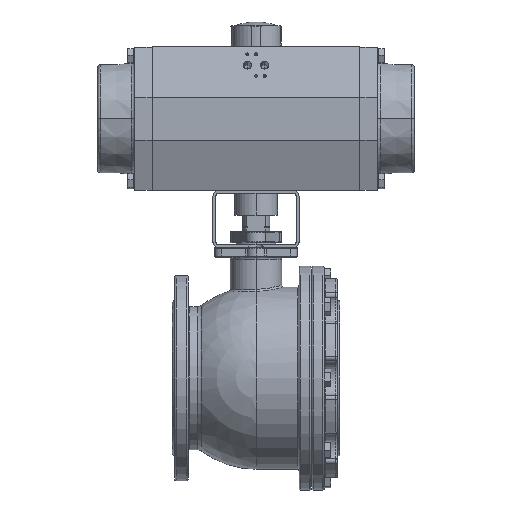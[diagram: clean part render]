
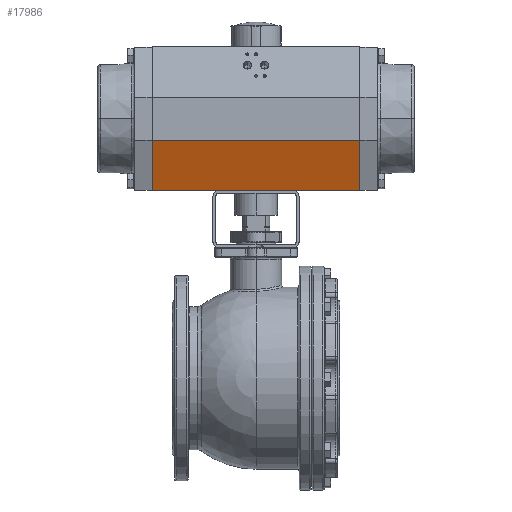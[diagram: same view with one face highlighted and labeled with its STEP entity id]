
A CAD part, top view. The second image highlights one B-rep face of the part: STEP entity #17986.
In plain terms, the highlighted planar face has unit normal (0, -0.336, 0.942) as drawn and (0.942, -0.336, 0) by its records, which use the part's own axes.
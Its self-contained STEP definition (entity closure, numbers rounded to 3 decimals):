
#1933 = EDGE_CURVE ( 'NONE', #19472, #19480, #2849, .T. ) ;
#1951 = EDGE_CURVE ( 'NONE', #19514, #19516, #22395, .T. ) ;
#1979 = EDGE_CURVE ( 'NONE', #19480, #19516, #22572, .T. ) ;
#1980 = EDGE_CURVE ( 'NONE', #19472, #19514, #22577, .T. ) ;
#2849 = LINE ( 'NONE', #2853, #24239 ) ;
#2853 = CARTESIAN_POINT ( 'NONE',  ( 62.5, -100., -145. ) ) ;
#2855 = DIRECTION ( 'NONE',  ( 0.336, 0.942, 0. ) ) ;
#5583 = AXIS2_PLACEMENT_3D ( 'NONE', #19522, #19511, #19531 ) ;
#8025 = CARTESIAN_POINT ( 'NONE',  ( 62.5, -100., -145. ) ) ;
#8029 = CARTESIAN_POINT ( 'NONE',  ( 87.5, -30., -145. ) ) ;
#8047 = CARTESIAN_POINT ( 'NONE',  ( 62.5, -100., 145. ) ) ;
#8048 = CARTESIAN_POINT ( 'NONE',  ( 87.5, -30., 145. ) ) ;
#10201 = EDGE_LOOP ( 'NONE', ( #18487, #18486, #18488, #18498 ) ) ;
#12760 = VECTOR ( 'NONE', #22575, 1000. ) ;
#12761 = VECTOR ( 'NONE', #22580, 1000. ) ;
#17986 = ADVANCED_FACE ( 'NONE', ( #19504 ), #19527, .T. ) ;
#18486 = ORIENTED_EDGE ( 'NONE', *, *, #1951, .F. ) ;
#18487 = ORIENTED_EDGE ( 'NONE', *, *, #1979, .T. ) ;
#18488 = ORIENTED_EDGE ( 'NONE', *, *, #1980, .F. ) ;
#18498 = ORIENTED_EDGE ( 'NONE', *, *, #1933, .T. ) ;
#19472 = VERTEX_POINT ( 'NONE', #8025 ) ;
#19480 = VERTEX_POINT ( 'NONE', #8029 ) ;
#19504 = FACE_OUTER_BOUND ( 'NONE', #10201, .T. ) ;
#19511 = DIRECTION ( 'NONE',  ( 0.942, -0.336, 0. ) ) ;
#19514 = VERTEX_POINT ( 'NONE', #8047 ) ;
#19516 = VERTEX_POINT ( 'NONE', #8048 ) ;
#19522 = CARTESIAN_POINT ( 'NONE',  ( 62.5, -100., -145. ) ) ;
#19527 = PLANE ( 'NONE',  #5583 ) ;
#19531 = DIRECTION ( 'NONE',  ( 0.336, 0.942, 0. ) ) ;
#22395 = LINE ( 'NONE', #22398, #24257 ) ;
#22398 = CARTESIAN_POINT ( 'NONE',  ( 62.5, -100., 145. ) ) ;
#22399 = DIRECTION ( 'NONE',  ( 0.336, 0.942, 0. ) ) ;
#22572 = LINE ( 'NONE', #22574, #12760 ) ;
#22574 = CARTESIAN_POINT ( 'NONE',  ( 87.5, -30., -145. ) ) ;
#22575 = DIRECTION ( 'NONE',  ( 0., 0., 1. ) ) ;
#22577 = LINE ( 'NONE', #22579, #12761 ) ;
#22579 = CARTESIAN_POINT ( 'NONE',  ( 62.5, -100., -145. ) ) ;
#22580 = DIRECTION ( 'NONE',  ( 0., 0., 1. ) ) ;
#24239 = VECTOR ( 'NONE', #2855, 1000. ) ;
#24257 = VECTOR ( 'NONE', #22399, 1000. ) ;
